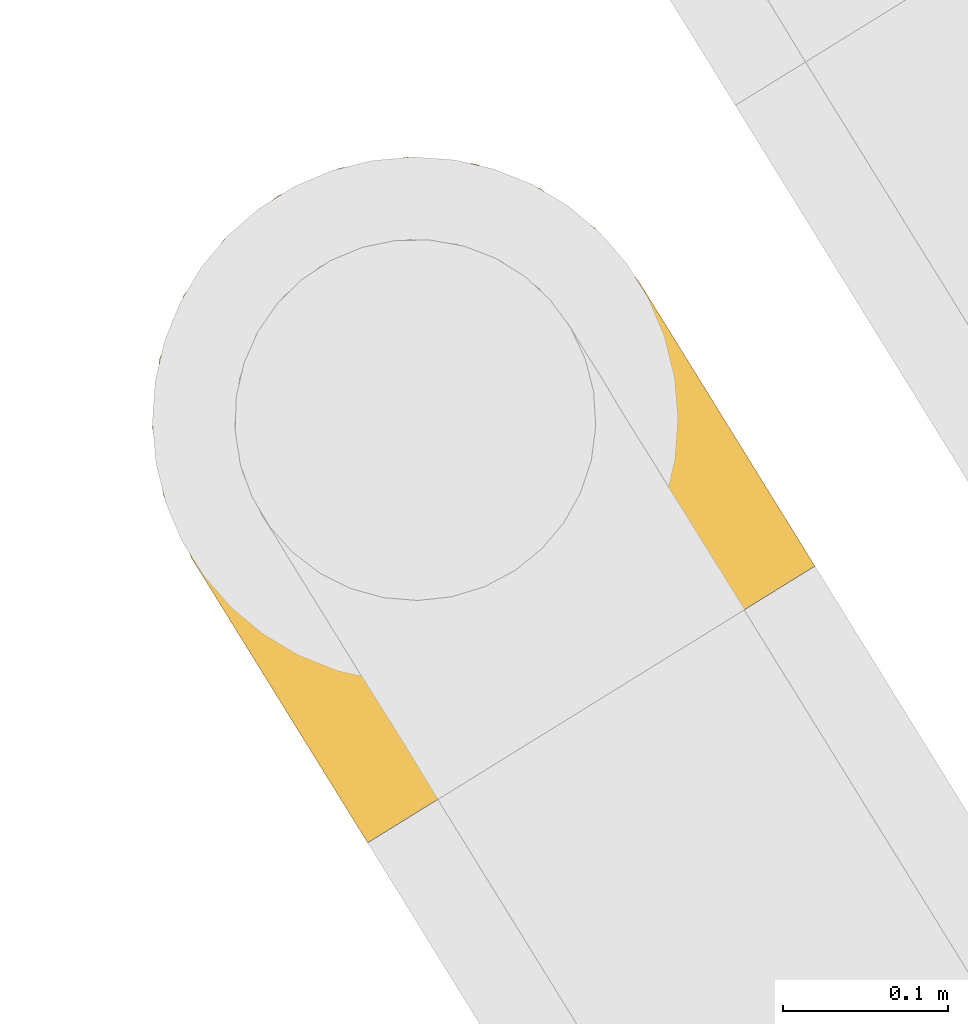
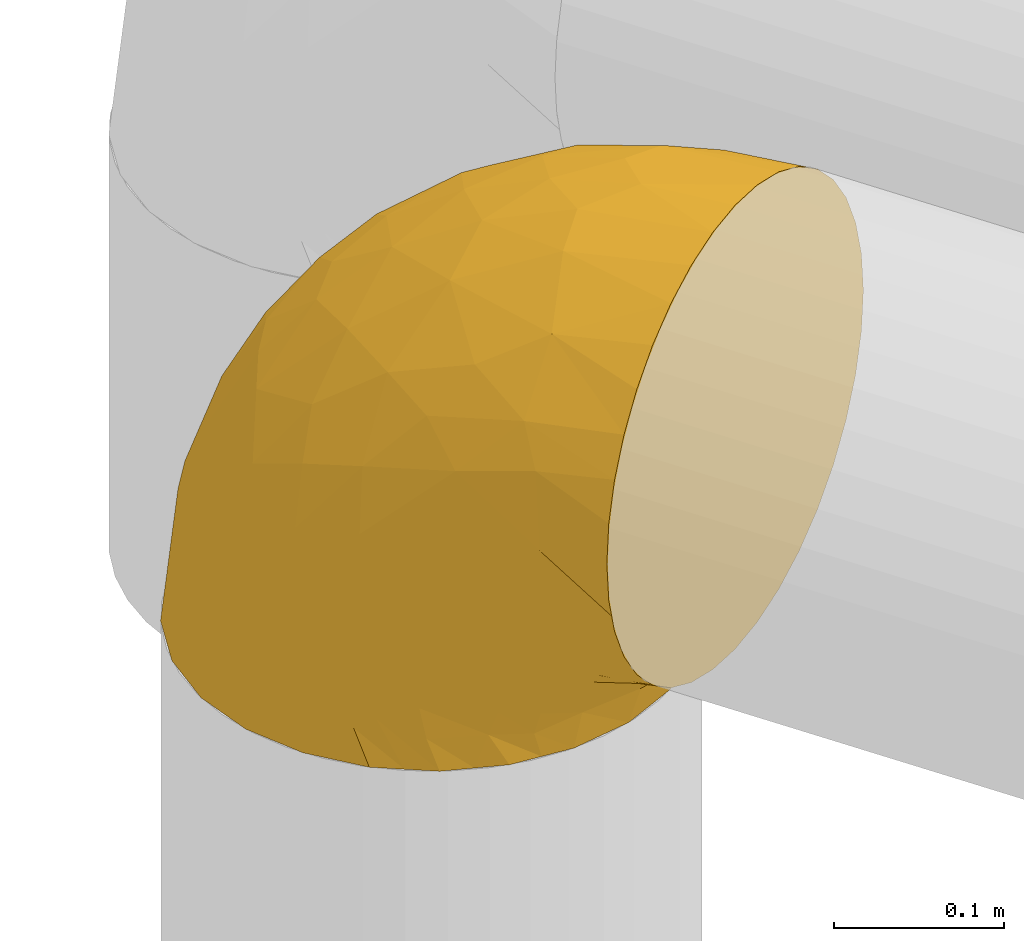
# One storey, part 38 of 91: 1 covering.
"""IFC2X3 building model written with IfcOpenShell, lengths in metres."""

from ifc_helpers import new_model, entity, si_unit, converted_unit, derived_unit, direction, frame, origin, place, context, subcontext, project, spatial, faceted_brep, element, save


model = new_model("IFC2X3")

# Units and contexts
model_context = context("Model", 3, precision=1e-05, world=origin(), true_north=direction((0.894925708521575, 0.446215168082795)))
context_of_model = context(None, 3, precision=1e-05, world=origin(), true_north=direction((0.894925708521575, 0.446215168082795)))
body_context = subcontext(model_context, "Body", "Model", "MODEL_VIEW")
ifc_project = project(units=[si_unit("LENGTHUNIT", "METRE"), si_unit("AREAUNIT", "SQUARE_METRE"), si_unit("VOLUMEUNIT", "CUBIC_METRE"), converted_unit("PLANEANGLEUNIT", "DEGREE", entity("IfcRatioMeasure", 0.0174532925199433), si_unit("PLANEANGLEUNIT", "RADIAN"), dimensions=[0, 0, 0, 0, 0, 0, 0]), si_unit("MASSUNIT", "GRAM", prefix="KILO"), si_unit("TIMEUNIT", "SECOND"), si_unit("FREQUENCYUNIT", "HERTZ"), si_unit("THERMODYNAMICTEMPERATUREUNIT", "DEGREE_CELSIUS"), derived_unit("THERMALTRANSMITTANCEUNIT", [(si_unit("MASSUNIT", "GRAM", prefix="KILO"), 1), (si_unit("THERMODYNAMICTEMPERATUREUNIT", "KELVIN"), -1), (si_unit("TIMEUNIT", "SECOND"), -3)]), derived_unit("VOLUMETRICFLOWRATEUNIT", [(si_unit("LENGTHUNIT", "METRE"), 3), (si_unit("TIMEUNIT", "SECOND"), -1)]), si_unit("ELECTRICCURRENTUNIT", "AMPERE"), si_unit("ELECTRICVOLTAGEUNIT", "VOLT"), si_unit("POWERUNIT", "WATT"), si_unit("FORCEUNIT", "NEWTON", prefix="KILO"), si_unit("ILLUMINANCEUNIT", "LUX"), si_unit("LUMINOUSFLUXUNIT", "LUMEN"), si_unit("LUMINOUSINTENSITYUNIT", "CANDELA"), si_unit("PRESSUREUNIT", "PASCAL")], contexts=[model_context, context_of_model])

# Site, building, storey
site_placement = place(None, frame((218.228324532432, 584.720189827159, 0.0), z_axis=(0.0, 0.0, 1.0), x_axis=(0.446215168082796, 0.894925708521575, 0.0)))
site = spatial("IfcSite", under=ifc_project, at=site_placement, Name="Default", CompositionType="ELEMENT")
building_placement = place(site_placement, origin())
building = spatial("IfcBuilding", under=site, at=building_placement, CompositionType="ELEMENT")
storey_placement = place(building_placement, origin())
storey = spatial("IfcBuildingStorey", under=building, at=storey_placement, Name="0 - Piano Terra", CompositionType="ELEMENT", Elevation=0.0)

# Covering
covering_placement = place(storey_placement, frame((-30.4963255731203, 6.5107420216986, 0.295404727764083)))
element("IfcCovering", 1, at=covering_placement, inside=storey, Name="Isolamento tubazione:Default", ObjectType="Isolamento tubazione:Default", PredefinedType="INSULATION", context=body_context, shape_type="Brep", body=[
    faceted_brep([(0.270854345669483, 0.00287081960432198, 0.232297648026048), (0.264733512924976, 0.00665990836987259, 0.259164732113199), (0.254738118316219, 0.0128475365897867, 0.284373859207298), (0.241175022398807, 0.0212437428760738, 0.307154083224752), (0.224456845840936, 0.0315930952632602, 0.32681632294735), (0.205084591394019, 0.0435854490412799, 0.342769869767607), (0.183649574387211, 0.0568547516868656, 0.354524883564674), (0.160808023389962, 0.0709947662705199, 0.361722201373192), (0.137255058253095, 0.0855751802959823, 0.364145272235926), (0.113700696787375, 0.100156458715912, 0.361721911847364), (0.0908565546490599, 0.114298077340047, 0.354523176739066), (0.0694221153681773, 0.127567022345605, 0.342767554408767), (0.0500528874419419, 0.139557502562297, 0.326815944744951), (0.0333347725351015, 0.149906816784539, 0.307153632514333), (0.0197700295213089, 0.158304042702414, 0.284369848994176), (0.00977515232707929, 0.164491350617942, 0.259160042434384), (0.00365552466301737, 0.168279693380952, 0.232296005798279), (0.00159527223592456, 0.169555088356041, 0.204595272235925), (0.0024005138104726, 0.169056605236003, 0.193769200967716), (0.00365577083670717, 0.168279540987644, 0.176892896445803), (0.00671618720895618, 0.16638499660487, 0.163459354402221), (0.00977660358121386, 0.164490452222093, 0.150025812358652), (0.019771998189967, 0.158302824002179, 0.124816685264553), (0.0333350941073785, 0.149906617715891, 0.102036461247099), (0.0500532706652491, 0.139557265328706, 0.0823742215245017), (0.0694255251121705, 0.127564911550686, 0.0664206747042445), (0.0908605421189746, 0.1142956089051, 0.0546656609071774), (0.113702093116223, 0.100155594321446, 0.0474683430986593), (0.137255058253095, 0.0855751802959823, 0.0450452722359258), (0.160809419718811, 0.0709939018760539, 0.0474686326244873), (0.183653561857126, 0.056852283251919, 0.0546673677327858), (0.205088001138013, 0.0435833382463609, 0.066422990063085), (0.224457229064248, 0.0315928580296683, 0.0823745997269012), (0.241175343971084, 0.0212435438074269, 0.102036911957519), (0.254740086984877, 0.0128463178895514, 0.124820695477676), (0.264734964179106, 0.00665900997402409, 0.150030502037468), (0.270854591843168, 0.0028706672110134, 0.176894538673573), (0.272109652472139, 0.0020937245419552, 0.193769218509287), (0.272914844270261, 0.00159527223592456, 0.204595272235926), (0.0887963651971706, 0.221635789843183, 0.0015952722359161), (0.0867133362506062, 0.242356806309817, 0.00159527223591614), (0.0846303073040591, 0.263077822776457, 0.00159527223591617), (0.0879812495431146, 0.283631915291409, 0.00159527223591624), (0.091332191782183, 0.304186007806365, 0.00159527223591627), (0.099360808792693, 0.322000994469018, 0.00159527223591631), (0.103903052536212, 0.332079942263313, 0.00159527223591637), (0.108445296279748, 0.342158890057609, 0.00159527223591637), (0.134803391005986, 0.374408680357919, 0.00159527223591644), (0.168610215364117, 0.398737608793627, 0.00159527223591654), (0.207561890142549, 0.413487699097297, 0.00159527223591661), (0.249003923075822, 0.417653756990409, 0.00159527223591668), (0.29011210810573, 0.410951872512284, 0.00159527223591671), (0.328084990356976, 0.393838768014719, 0.00159527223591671), (0.360334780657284, 0.367480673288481, 0.00159527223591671), (0.384663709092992, 0.33367384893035, 0.00159527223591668), (0.399413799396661, 0.294722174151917, 0.00159527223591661), (0.403579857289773, 0.253280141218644, 0.00159527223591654), (0.396877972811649, 0.212171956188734, 0.00159527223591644), (0.379764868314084, 0.174199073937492, 0.00159527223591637), (0.372768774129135, 0.165639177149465, 0.00159527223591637), (0.365772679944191, 0.15707928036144, 0.00159527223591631), (0.353406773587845, 0.141949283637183, 0.00159527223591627), (0.336503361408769, 0.129784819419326, 0.00159527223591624), (0.319599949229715, 0.117620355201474, 0.00159527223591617), (0.300124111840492, 0.110245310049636, 0.00159527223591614), (0.280648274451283, 0.102870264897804, 0.0015952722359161), (0.23920624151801, 0.0987042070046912, 0.00159527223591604), (0.198098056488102, 0.105406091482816, 0.001595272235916), (0.160125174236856, 0.122519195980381, 0.001595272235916), (0.127875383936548, 0.14887729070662, 0.001595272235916), (0.10354645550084, 0.182684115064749, 0.00159527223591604), (0.0961714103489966, 0.202159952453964, 0.00159527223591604), (0.35357492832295, 0.358969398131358, 0.0900951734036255), (0.325185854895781, 0.389155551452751, 0.0645514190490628), (0.316576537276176, 0.375248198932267, 0.125594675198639), (0.369829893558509, 0.185181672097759, 0.173037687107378), (0.357880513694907, 0.145533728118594, 0.168703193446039), (0.387234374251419, 0.202289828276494, 0.108066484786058), (0.356453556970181, 0.136542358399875, 0.128163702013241), (0.362818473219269, 0.146824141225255, 0.108918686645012), (0.369183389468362, 0.157105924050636, 0.089673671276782), (0.361981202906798, 0.319892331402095, 0.142688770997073), (0.340579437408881, 0.342644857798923, 0.150576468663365), (0.322765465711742, 0.316852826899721, 0.206213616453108), (0.318761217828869, 0.180919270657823, 0.273081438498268), (0.353107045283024, 0.210085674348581, 0.221076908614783), (0.340388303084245, 0.241651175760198, 0.234774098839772), (0.374509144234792, 0.342119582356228, 0.0599626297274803), (0.399887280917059, 0.277257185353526, 0.0515208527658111), (0.342748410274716, 0.136000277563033, 0.215857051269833), (0.302518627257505, 0.352539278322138, 0.182870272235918), (0.283439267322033, 0.321718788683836, 0.234637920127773), (0.294786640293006, 0.287558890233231, 0.256252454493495), (0.259918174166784, 0.283723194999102, 0.279324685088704), (0.296691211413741, 0.0400032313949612, 0.19950563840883), (0.318972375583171, 0.0826821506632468, 0.218772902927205), (0.389178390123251, 0.271248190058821, 0.115600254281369), (0.385915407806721, 0.230504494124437, 0.136729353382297), (0.399024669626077, 0.236460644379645, 0.064664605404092), (0.232685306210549, 0.122790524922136, 0.342089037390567), (0.247630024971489, 0.192533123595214, 0.3271721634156), (0.209497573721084, 0.14617429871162, 0.350066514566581), (0.377085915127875, 0.169871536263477, 0.0467670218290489), (0.378438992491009, 0.172057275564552, 0.0239518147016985), (0.379101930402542, 0.173128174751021, 0.0127735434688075), (0.386337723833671, 0.314955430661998, 0.0737158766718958), (0.202522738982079, 0.191007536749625, 0.34228083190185), (0.232670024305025, 0.239706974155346, 0.315572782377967), (0.373134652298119, 0.163488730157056, 0.0682203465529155), (0.290826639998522, 0.0679042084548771, 0.273493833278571), (0.31773910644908, 0.266140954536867, 0.250122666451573), (0.282497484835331, 0.238045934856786, 0.292585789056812), (0.305304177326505, 0.219935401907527, 0.281138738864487), (0.2976225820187, 0.114356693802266, 0.288377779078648), (0.262569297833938, 0.0844076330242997, 0.316159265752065), (0.331650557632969, 0.155725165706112, 0.251447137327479), (0.282197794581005, 0.170285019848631, 0.309557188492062), (0.170392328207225, 0.139104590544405, 0.358637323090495), (0.2787985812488, 0.0110997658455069, 0.20333578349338), (0.284682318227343, 0.0206042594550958, 0.202076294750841), (0.31927533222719, 0.076485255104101, 0.18449195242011), (0.329405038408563, 0.0928486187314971, 0.17239950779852), (0.339534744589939, 0.109211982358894, 0.160307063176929), (0.307983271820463, 0.0582442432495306, 0.19199879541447), (0.347994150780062, 0.122877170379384, 0.144235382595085), (0.348257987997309, 0.287034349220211, 0.199279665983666), (0.368646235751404, 0.257189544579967, 0.18030416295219), (0.375478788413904, 0.292048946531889, 0.141814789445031), (0.178441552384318, 0.0901296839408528, 0.0408292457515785), (0.360405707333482, 0.148356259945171, 0.028462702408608), (0.269853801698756, 0.031428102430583, 0.12818227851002), (0.350801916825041, 0.138048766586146, 0.0376598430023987), (0.274380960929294, 0.0615737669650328, 0.0979970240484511), (0.240703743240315, 0.0492642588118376, 0.0829606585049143), (0.255268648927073, 0.0644117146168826, 0.0787272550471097), (0.338786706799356, 0.11770689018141, 0.0951853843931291), (0.325937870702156, 0.101452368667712, 0.107494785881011), (0.311471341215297, 0.0981749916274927, 0.0804950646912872), (0.29082799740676, 0.0417220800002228, 0.155605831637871), (0.237534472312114, 0.0926506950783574, 0.0312638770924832), (0.270518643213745, 0.0980943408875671, 0.0260038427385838), (0.267778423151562, 0.0906554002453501, 0.0467246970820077), (0.275999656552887, 0.0516571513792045, 0.112391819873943), (0.307260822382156, 0.0764596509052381, 0.123613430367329), (0.306981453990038, 0.0659844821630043, 0.148232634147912), (0.252230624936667, 0.0770040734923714, 0.0620352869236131), (0.284669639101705, 0.0746266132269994, 0.0904636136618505), (0.223031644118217, 0.0625228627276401, 0.0646338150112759), (0.2954934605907, 0.0981276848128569, 0.0541637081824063), (0.19548537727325, 0.0994173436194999, 0.0263992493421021), (0.209627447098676, 0.0817906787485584, 0.0462280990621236), (0.328235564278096, 0.0969037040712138, 0.133116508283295), (0.322820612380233, 0.0862900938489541, 0.148702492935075), (0.190355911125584, 0.0726669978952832, 0.050897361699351), (0.287572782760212, 0.0315729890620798, 0.168975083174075), (0.284888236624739, 0.0864246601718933, 0.0698164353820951), (0.306113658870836, 0.110129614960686, 0.0207775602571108), (0.148690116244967, 0.104047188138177, 0.0392240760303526), (0.157061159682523, 0.117569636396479, 0.0233202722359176), (0.303069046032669, 0.106432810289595, 0.0360215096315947), (0.353307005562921, 0.136995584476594, 0.0724405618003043), (0.340445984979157, 0.123158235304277, 0.0762577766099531), (0.321073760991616, 0.108795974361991, 0.0687110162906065), (0.332214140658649, 0.120914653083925, 0.0504309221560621), (0.312062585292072, 0.0868495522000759, 0.110544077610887), (0.327152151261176, 0.120731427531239, 0.0261891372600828), (0.0588774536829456, 0.173619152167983, 0.0854589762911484), (0.0610592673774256, 0.211286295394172, 0.091330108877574), (0.0482600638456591, 0.212710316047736, 0.117856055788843), (0.122790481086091, 0.121283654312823, 0.0421616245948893), (0.123151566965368, 0.141874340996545, 0.0292129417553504), (0.0909365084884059, 0.20686917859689, 0.0219615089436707), (0.0842790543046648, 0.234404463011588, 0.0268437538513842), (0.0665269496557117, 0.251116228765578, 0.0982324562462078), (0.0727408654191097, 0.279359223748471, 0.116013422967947), (0.0755782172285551, 0.267083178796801, 0.07707626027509), (0.0532903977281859, 0.245887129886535, 0.142677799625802), (0.0595675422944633, 0.237551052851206, 0.10861776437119), (0.0580854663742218, 0.260808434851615, 0.172399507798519), (0.0439734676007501, 0.231600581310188, 0.154525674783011), (0.105766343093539, 0.337831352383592, 0.0467670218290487), (0.107119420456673, 0.340017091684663, 0.0239518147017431), (0.107782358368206, 0.341087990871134, 0.0127735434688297), (0.0870938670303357, 0.203363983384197, 0.0387154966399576), (0.0808460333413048, 0.228785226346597, 0.0449983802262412), (0.0939461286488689, 0.313307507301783, 0.0284627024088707), (0.102030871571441, 0.12470267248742, 0.0511194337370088), (0.0784866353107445, 0.148396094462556, 0.0644557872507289), (0.101768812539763, 0.144082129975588, 0.0476548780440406), (0.0820042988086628, 0.275196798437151, 0.0492274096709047), (0.0840582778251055, 0.270829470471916, 0.0255805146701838), (0.0715343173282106, 0.177559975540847, 0.0713370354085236), (0.101815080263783, 0.331448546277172, 0.0682203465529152), (0.0747987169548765, 0.221407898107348, 0.0636793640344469), (0.0890024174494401, 0.300115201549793, 0.0376598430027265), (0.00747900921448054, 0.179059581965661, 0.203335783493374), (0.0133627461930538, 0.188564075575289, 0.20207629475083), (0.0253716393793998, 0.207963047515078, 0.199505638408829), (0.0428269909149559, 0.177134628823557, 0.106279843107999), (0.063009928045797, 0.261567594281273, 0.128674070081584), (0.0766745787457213, 0.290836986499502, 0.144235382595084), (0.0338653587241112, 0.198793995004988, 0.13747499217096), (0.099853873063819, 0.177990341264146, 0.029608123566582), (0.0479557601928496, 0.244445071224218, 0.184491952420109), (0.0366636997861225, 0.226204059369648, 0.191998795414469), (0.0169222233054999, 0.189723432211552, 0.175110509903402), (0.0237768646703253, 0.194951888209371, 0.159628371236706), (0.0786491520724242, 0.288808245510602, 0.101389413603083), (0.097863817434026, 0.325065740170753, 0.0896736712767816), (0.094612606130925, 0.16902785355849, 0.0449504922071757), (0.0776983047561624, 0.1929619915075, 0.0615544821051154), (0.0351726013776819, 0.217924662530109, 0.1629673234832), (0.0862258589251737, 0.301196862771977, 0.0775658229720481), (0.0682151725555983, 0.277171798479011, 0.160307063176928), (0.0851339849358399, 0.304502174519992, 0.128163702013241), (0.0914989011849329, 0.314783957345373, 0.108918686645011), (0.0925457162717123, 0.309788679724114, 0.168703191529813), (0.247803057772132, 0.316643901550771, 0.25625238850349), (0.208964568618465, 0.283566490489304, 0.292585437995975), (0.153624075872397, 0.382864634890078, 0.0858702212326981), (0.191114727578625, 0.393859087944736, 0.115600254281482), (0.191718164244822, 0.406123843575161, 0.0515208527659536), (0.118900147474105, 0.352361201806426, 0.0947832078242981), (0.0803328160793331, 0.197222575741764, 0.316158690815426), (0.0529594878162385, 0.215157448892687, 0.273489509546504), (0.0639501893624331, 0.255069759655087, 0.231435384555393), (0.171034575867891, 0.312205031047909, 0.261389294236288), (0.152453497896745, 0.334299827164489, 0.221076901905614), (0.125057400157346, 0.291272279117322, 0.261435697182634), (0.218397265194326, 0.327638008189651, 0.250122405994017), (0.203985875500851, 0.363895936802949, 0.197311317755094), (0.261547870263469, 0.354749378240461, 0.20621355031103), (0.257883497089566, 0.406862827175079, 0.0896994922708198), (0.231502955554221, 0.410805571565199, 0.0737158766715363), (0.284638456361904, 0.379332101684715, 0.151012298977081), (0.232529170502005, 0.360933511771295, 0.204366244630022), (0.246782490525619, 0.391205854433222, 0.142688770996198), (0.285508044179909, 0.401106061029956, 0.0900951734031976), (0.135817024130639, 0.340859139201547, 0.190362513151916), (0.0357619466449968, 0.209483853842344, 0.249198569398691), (0.218839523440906, 0.39554154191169, 0.129404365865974), (0.148444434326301, 0.253082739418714, 0.309556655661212), (0.128008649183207, 0.187587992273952, 0.342087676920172), (0.183772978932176, 0.232063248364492, 0.327171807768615), (0.124038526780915, 0.345750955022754, 0.152632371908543), (0.16938442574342, 0.368192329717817, 0.168253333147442), (0.0915068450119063, 0.241951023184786, 0.288376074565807), (0.159278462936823, 0.177257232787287, 0.350067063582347), (0.103857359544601, 0.307471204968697, 0.209361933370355), (0.090453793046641, 0.270413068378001, 0.253495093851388)], [[[0, 1, 2, 3, 4, 5, 6, 7, 8, 9, 10, 11, 12, 13, 14, 15, 16, 17, 18, 19, 20, 21, 22, 23, 24, 25, 26, 27, 28, 29, 30, 31, 32, 33, 34, 35, 36, 37, 38]], [[39, 40, 41, 42, 43, 44, 45, 46, 47, 48, 49, 50, 51, 52, 53, 54, 55, 56, 57, 58, 59, 60, 61, 62, 63, 64, 65, 66, 67, 68, 69, 70, 71]], [[72, 73, 74]], [[73, 53, 52]], [[75, 76, 77]], [[76, 78, 79, 80]], [[81, 82, 83]], [[84, 85, 86]], [[87, 53, 72]], [[88, 56, 55]], [[89, 76, 75]], [[83, 82, 90]], [[91, 83, 90]], [[92, 91, 93]], [[0, 94, 95]], [[96, 97, 98]], [[99, 100, 101]], [[57, 102, 103, 104, 58]], [[55, 54, 105]], [[106, 100, 107]], [[98, 57, 56]], [[77, 80, 108, 102]], [[2, 1, 109]], [[102, 57, 77]], [[110, 111, 112]], [[89, 95, 76]], [[76, 80, 77]], [[91, 92, 83]], [[109, 113, 114]], [[115, 109, 89]], [[111, 107, 100]], [[109, 0, 95]], [[5, 99, 6]], [[105, 96, 88]], [[7, 6, 101]], [[99, 5, 114]], [[99, 114, 116]], [[99, 101, 6]], [[82, 81, 72]], [[4, 114, 5]], [[113, 116, 114]], [[117, 8, 7]], [[117, 101, 106]], [[114, 3, 2]], [[0, 38, 118, 119, 94]], [[95, 120, 121, 122]], [[110, 112, 86]], [[85, 84, 115]], [[85, 75, 97]], [[95, 94, 123, 120]], [[116, 112, 111]], [[76, 95, 122]], [[53, 73, 72]], [[76, 122, 124, 78]], [[99, 116, 100]], [[3, 114, 4]], [[2, 109, 114]], [[81, 105, 87]], [[125, 83, 110]], [[92, 111, 110]], [[0, 109, 1]], [[125, 126, 127]], [[89, 109, 95]], [[97, 75, 77]], [[115, 75, 85]], [[98, 97, 77]], [[97, 96, 126]], [[93, 107, 111]], [[83, 92, 110]], [[111, 92, 93]], [[116, 111, 100]], [[57, 98, 77]], [[98, 56, 88]], [[87, 105, 54]], [[105, 81, 127]], [[84, 112, 116]], [[112, 84, 86]], [[116, 113, 84]], [[115, 84, 113]], [[126, 86, 85]], [[125, 110, 86]], [[97, 126, 85]], [[127, 126, 96]], [[126, 125, 86]], [[83, 125, 81]], [[109, 115, 113]], [[75, 115, 89]], [[105, 127, 96]], [[125, 127, 81]], [[106, 101, 100]], [[7, 101, 117]], [[105, 88, 55]], [[98, 88, 96]], [[72, 74, 82]], [[90, 82, 74]], [[53, 87, 54]], [[81, 87, 72]], [[59, 58, 104, 103, 102, 61, 60]], [[29, 28, 128]], [[61, 129, 62]], [[130, 34, 33]], [[63, 62, 131]], [[102, 129, 61]], [[132, 133, 134]], [[135, 136, 137]], [[130, 138, 34]], [[139, 140, 141]], [[142, 143, 144]], [[134, 145, 146]], [[147, 31, 30]], [[141, 140, 148]], [[149, 68, 67]], [[67, 66, 139]], [[142, 32, 133]], [[134, 133, 147]], [[150, 128, 149]], [[136, 124, 151]], [[151, 122, 152]], [[147, 153, 150]], [[142, 33, 32]], [[30, 153, 147]], [[94, 35, 154]], [[138, 123, 154]], [[119, 118, 38, 37, 36, 94]], [[149, 67, 139]], [[145, 155, 146]], [[94, 36, 35]], [[156, 65, 64]], [[138, 130, 144]], [[157, 128, 28]], [[150, 153, 128]], [[154, 34, 138]], [[138, 120, 123]], [[149, 128, 158]], [[31, 133, 32]], [[31, 147, 133]], [[30, 29, 153]], [[145, 147, 150]], [[159, 148, 140]], [[144, 120, 138]], [[160, 131, 80]], [[161, 135, 162]], [[108, 131, 129]], [[80, 131, 108]], [[159, 156, 163]], [[150, 139, 145]], [[155, 141, 148]], [[142, 132, 143]], [[152, 144, 143]], [[108, 129, 102]], [[131, 62, 129]], [[29, 128, 153]], [[158, 128, 157]], [[149, 158, 68]], [[139, 150, 149]], [[164, 136, 151]], [[144, 152, 121]], [[164, 155, 137]], [[135, 78, 136]], [[145, 134, 147]], [[132, 134, 146]], [[143, 132, 146]], [[133, 132, 142]], [[33, 142, 130]], [[144, 130, 142]], [[141, 145, 139]], [[137, 155, 148]], [[137, 162, 135]], [[137, 136, 164]], [[162, 137, 148]], [[159, 162, 148]], [[160, 79, 161]], [[79, 78, 135]], [[161, 162, 163]], [[160, 161, 163]], [[79, 135, 161]], [[160, 163, 165]], [[79, 160, 80]], [[145, 141, 155]], [[140, 139, 66]], [[66, 65, 140]], [[159, 163, 162]], [[140, 65, 159]], [[63, 165, 64]], [[156, 159, 65]], [[63, 131, 165]], [[160, 165, 131]], [[64, 165, 156]], [[163, 156, 165]], [[121, 152, 122]], [[121, 120, 144]], [[151, 152, 143]], [[164, 151, 143]], [[143, 146, 164]], [[124, 136, 78]], [[124, 122, 151]], [[164, 146, 155]], [[94, 154, 123]], [[34, 154, 35]], [[24, 166, 25]], [[167, 166, 168]], [[158, 169, 170]], [[71, 171, 172]], [[158, 157, 169]], [[173, 174, 175]], [[168, 176, 177]], [[170, 68, 158]], [[178, 176, 179]], [[171, 71, 70]], [[45, 44, 43, 180, 181, 182, 46]], [[171, 183, 184]], [[43, 42, 185]], [[186, 187, 188]], [[172, 39, 71]], [[189, 190, 172]], [[191, 188, 187]], [[185, 192, 180]], [[191, 187, 166]], [[184, 183, 193]], [[27, 26, 186]], [[194, 42, 41]], [[18, 17, 195, 196, 197, 19]], [[187, 26, 25]], [[166, 187, 25]], [[24, 198, 166]], [[199, 200, 174]], [[23, 22, 201]], [[23, 198, 24]], [[186, 169, 27]], [[70, 69, 202]], [[203, 178, 179]], [[201, 168, 198]], [[204, 205, 197]], [[204, 206, 205]], [[175, 184, 193]], [[205, 20, 197]], [[174, 207, 175]], [[194, 208, 192]], [[68, 170, 69]], [[183, 209, 210]], [[166, 198, 168]], [[169, 28, 27]], [[167, 210, 191]], [[201, 198, 23]], [[203, 179, 211]], [[21, 206, 22]], [[185, 180, 43]], [[172, 190, 40]], [[194, 189, 212]], [[187, 186, 26]], [[169, 186, 188]], [[169, 188, 170]], [[169, 157, 28]], [[209, 170, 188]], [[69, 170, 202]], [[42, 194, 185]], [[192, 185, 194]], [[211, 204, 203]], [[201, 22, 206]], [[177, 176, 199]], [[193, 167, 173]], [[199, 176, 213]], [[213, 176, 178]], [[179, 168, 201]], [[200, 214, 174]], [[177, 199, 173]], [[199, 213, 200]], [[168, 179, 176]], [[179, 201, 211]], [[201, 206, 211]], [[204, 211, 206]], [[212, 175, 207]], [[199, 174, 173]], [[207, 174, 214]], [[172, 175, 189]], [[214, 215, 207]], [[208, 212, 215]], [[207, 215, 212]], [[194, 212, 208]], [[212, 189, 175]], [[167, 191, 166]], [[191, 210, 209]], [[20, 205, 21]], [[20, 19, 197]], [[206, 21, 205]], [[202, 183, 171]], [[202, 171, 70]], [[171, 184, 172]], [[175, 172, 184]], [[190, 41, 40]], [[190, 194, 41]], [[39, 172, 40]], [[194, 190, 189]], [[209, 183, 202]], [[193, 183, 210]], [[167, 193, 210]], [[175, 193, 173]], [[170, 209, 202]], [[191, 209, 188]], [[173, 167, 177]], [[168, 177, 167]], [[216, 208, 215, 214]], [[93, 217, 218]], [[219, 220, 221]], [[222, 46, 182, 181, 180]], [[222, 208, 216]], [[223, 224, 14]], [[203, 225, 216]], [[226, 227, 228]], [[14, 224, 15]], [[216, 214, 200, 213]], [[229, 230, 226]], [[217, 231, 229]], [[232, 50, 233]], [[90, 74, 234]], [[73, 52, 51]], [[223, 12, 11]], [[49, 48, 221]], [[235, 236, 230]], [[49, 233, 50]], [[74, 73, 237]], [[227, 238, 228]], [[236, 231, 234]], [[16, 15, 239]], [[234, 74, 237]], [[233, 240, 236]], [[231, 91, 90]], [[225, 203, 204, 197]], [[241, 242, 243]], [[222, 180, 192, 208]], [[107, 93, 218]], [[239, 197, 16]], [[16, 197, 196, 195, 17]], [[232, 51, 50]], [[244, 222, 216]], [[47, 222, 219]], [[245, 230, 240]], [[246, 224, 223]], [[243, 106, 107]], [[48, 47, 219]], [[14, 13, 223]], [[73, 51, 237]], [[11, 242, 223]], [[12, 223, 13]], [[247, 243, 242]], [[11, 10, 242]], [[243, 218, 241]], [[106, 243, 247]], [[91, 217, 93]], [[247, 9, 117]], [[46, 222, 47]], [[8, 117, 9]], [[248, 216, 225]], [[219, 222, 244]], [[242, 241, 223]], [[228, 248, 249]], [[244, 245, 219]], [[10, 9, 247]], [[244, 216, 248]], [[245, 244, 238]], [[216, 213, 178, 203]], [[241, 246, 223]], [[249, 224, 246]], [[239, 224, 225]], [[249, 225, 224]], [[238, 244, 248]], [[231, 217, 91]], [[218, 217, 229]], [[218, 229, 226]], [[107, 218, 243]], [[249, 246, 228]], [[248, 225, 249]], [[233, 49, 221]], [[232, 233, 236]], [[224, 239, 15]], [[197, 239, 225]], [[246, 241, 228]], [[231, 235, 229]], [[228, 241, 226]], [[218, 226, 241]], [[230, 236, 240]], [[227, 226, 230]], [[228, 238, 248]], [[245, 238, 227]], [[230, 245, 227]], [[219, 245, 220]], [[247, 242, 10]], [[106, 247, 117]], [[219, 221, 48]], [[233, 221, 220]], [[236, 234, 237]], [[90, 234, 231]], [[233, 220, 240]], [[240, 220, 245]], [[236, 237, 232]], [[232, 237, 51]], [[236, 235, 231]], [[230, 229, 235]]]),
])

save(model, "model.ifc")
